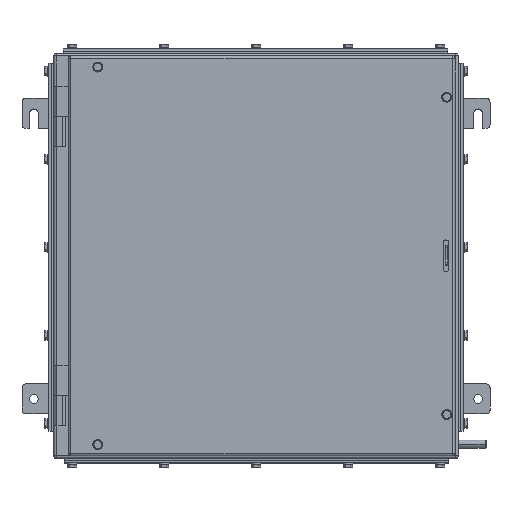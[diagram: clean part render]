
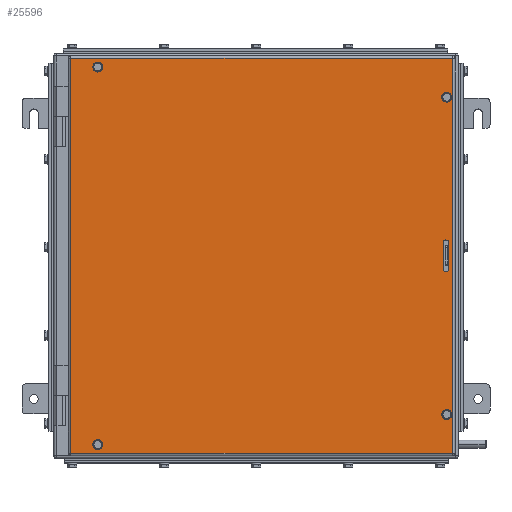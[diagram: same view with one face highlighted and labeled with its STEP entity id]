
A CAD part, top view. The second image highlights one B-rep face of the part: STEP entity #25596.
In plain terms, the highlighted planar face has unit normal (0, 0, 1).
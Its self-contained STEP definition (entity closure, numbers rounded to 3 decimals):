
#14 = EDGE_CURVE ( 'NONE', #9750, #15095, #8556, .T. ) ;
#539 = AXIS2_PLACEMENT_3D ( 'NONE', #9862, #834, #19491 ) ;
#834 = DIRECTION ( 'NONE',  ( 0., 0., 1. ) ) ;
#990 = FACE_BOUND ( 'NONE', #4991, .T. ) ;
#1083 = VERTEX_POINT ( 'NONE', #19952 ) ;
#1320 = ORIENTED_EDGE ( 'NONE', *, *, #2948, .F. ) ;
#1481 = ORIENTED_EDGE ( 'NONE', *, *, #18005, .F. ) ;
#1583 = CARTESIAN_POINT ( 'NONE',  ( 48., 238., 18. ) ) ;
#1828 = CIRCLE ( 'NONE', #15972, 3.5 ) ;
#1852 = ORIENTED_EDGE ( 'NONE', *, *, #14748, .F. ) ;
#1881 = EDGE_LOOP ( 'NONE', ( #19009, #20680, #21380, #5660 ) ) ;
#1978 = EDGE_CURVE ( 'NONE', #4297, #22771, #18987, .T. ) ;
#2020 = VERTEX_POINT ( 'NONE', #28738 ) ;
#2804 = CARTESIAN_POINT ( 'NONE',  ( 488., -200., 18. ) ) ;
#2948 = EDGE_CURVE ( 'NONE', #6728, #8467, #7633, .T. ) ;
#3142 = CARTESIAN_POINT ( 'NONE',  ( 487., 16.5, 18. ) ) ;
#3213 = FACE_BOUND ( 'NONE', #10265, .T. ) ;
#3491 = DIRECTION ( 'NONE',  ( 0., 1., 0. ) ) ;
#3697 = CARTESIAN_POINT ( 'NONE',  ( 484.5, 200., 18. ) ) ;
#4297 = VERTEX_POINT ( 'NONE', #14318 ) ;
#4305 = CARTESIAN_POINT ( 'NONE',  ( 44.5, 238., 18. ) ) ;
#4435 = AXIS2_PLACEMENT_3D ( 'NONE', #24098, #10481, #19505 ) ;
#4451 = LINE ( 'NONE', #13494, #6062 ) ;
#4639 = DIRECTION ( 'NONE',  ( 1., 0., 0. ) ) ;
#4858 = ORIENTED_EDGE ( 'NONE', *, *, #17711, .F. ) ;
#4908 = CIRCLE ( 'NONE', #21443, 3.5 ) ;
#4938 = DIRECTION ( 'NONE',  ( 0., 0., 1. ) ) ;
#4991 = EDGE_LOOP ( 'NONE', ( #13675, #6557 ) ) ;
#5076 = CARTESIAN_POINT ( 'NONE',  ( 48., -238., 18. ) ) ;
#5660 = ORIENTED_EDGE ( 'NONE', *, *, #22621, .T. ) ;
#6062 = VECTOR ( 'NONE', #25581, 1000. ) ;
#6453 = ORIENTED_EDGE ( 'NONE', *, *, #23432, .F. ) ;
#6557 = ORIENTED_EDGE ( 'NONE', *, *, #14, .F. ) ;
#6728 = VERTEX_POINT ( 'NONE', #15006 ) ;
#6882 = CARTESIAN_POINT ( 'NONE',  ( 48., -238., 18. ) ) ;
#6915 = VERTEX_POINT ( 'NONE', #11271 ) ;
#7012 = CIRCLE ( 'NONE', #22149, 3.5 ) ;
#7597 = CARTESIAN_POINT ( 'NONE',  ( 48., 238., 18. ) ) ;
#7617 = AXIS2_PLACEMENT_3D ( 'NONE', #2804, #20583, #18211 ) ;
#7633 = LINE ( 'NONE', #19030, #10728 ) ;
#7655 = FACE_BOUND ( 'NONE', #27430, .T. ) ;
#7675 = AXIS2_PLACEMENT_3D ( 'NONE', #15005, #25666, #24028 ) ;
#7728 = DIRECTION ( 'NONE',  ( 0., 0., 1. ) ) ;
#7946 = PLANE ( 'NONE',  #27025 ) ;
#8013 = DIRECTION ( 'NONE',  ( 0., 0., 1. ) ) ;
#8063 = CARTESIAN_POINT ( 'NONE',  ( 498., 249., 18. ) ) ;
#8199 = EDGE_LOOP ( 'NONE', ( #11620, #6453 ) ) ;
#8467 = VERTEX_POINT ( 'NONE', #10518 ) ;
#8556 = CIRCLE ( 'NONE', #15660, 3.5 ) ;
#9002 = EDGE_CURVE ( 'NONE', #21807, #6728, #19422, .T. ) ;
#9081 = DIRECTION ( 'NONE',  ( 1., 0., 0. ) ) ;
#9420 = VECTOR ( 'NONE', #17092, 1000. ) ;
#9424 = VERTEX_POINT ( 'NONE', #14384 ) ;
#9577 = DIRECTION ( 'NONE',  ( 1., 0., 0. ) ) ;
#9750 = VERTEX_POINT ( 'NONE', #4305 ) ;
#9862 = CARTESIAN_POINT ( 'NONE',  ( 487., -16.5, 18. ) ) ;
#10265 = EDGE_LOOP ( 'NONE', ( #1852, #1481, #1320, #16681 ) ) ;
#10288 = VERTEX_POINT ( 'NONE', #23195 ) ;
#10481 = DIRECTION ( 'NONE',  ( 0., 0., 1. ) ) ;
#10518 = CARTESIAN_POINT ( 'NONE',  ( 490.5, 16.5, 18. ) ) ;
#10545 = CARTESIAN_POINT ( 'NONE',  ( 44.5, -238., 18. ) ) ;
#10728 = VECTOR ( 'NONE', #3491, 1000. ) ;
#10831 = CIRCLE ( 'NONE', #27311, 3.5 ) ;
#10847 = CARTESIAN_POINT ( 'NONE',  ( 14., 249., 18. ) ) ;
#11215 = EDGE_CURVE ( 'NONE', #17524, #9424, #10831, .T. ) ;
#11226 = ORIENTED_EDGE ( 'NONE', *, *, #26048, .F. ) ;
#11271 = CARTESIAN_POINT ( 'NONE',  ( 483.5, 16.5, 18. ) ) ;
#11620 = ORIENTED_EDGE ( 'NONE', *, *, #12013, .F. ) ;
#12013 = EDGE_CURVE ( 'NONE', #10288, #2020, #14829, .T. ) ;
#12254 = FACE_BOUND ( 'NONE', #8199, .T. ) ;
#12321 = DIRECTION ( 'NONE',  ( 1., 0., 0. ) ) ;
#13246 = VECTOR ( 'NONE', #9577, 1000. ) ;
#13494 = CARTESIAN_POINT ( 'NONE',  ( 483.5, 16.5, 18. ) ) ;
#13675 = ORIENTED_EDGE ( 'NONE', *, *, #13679, .F. ) ;
#13679 = EDGE_CURVE ( 'NONE', #15095, #9750, #4908, .T. ) ;
#14247 = VERTEX_POINT ( 'NONE', #16305 ) ;
#14318 = CARTESIAN_POINT ( 'NONE',  ( 495., -249., 18. ) ) ;
#14384 = CARTESIAN_POINT ( 'NONE',  ( 51.5, -238., 18. ) ) ;
#14527 = DIRECTION ( 'NONE',  ( 1., 0., 0. ) ) ;
#14536 = DIRECTION ( 'NONE',  ( 0., 1., 0. ) ) ;
#14748 = EDGE_CURVE ( 'NONE', #6915, #21807, #4451, .T. ) ;
#14829 = CIRCLE ( 'NONE', #4435, 3.5 ) ;
#15005 = CARTESIAN_POINT ( 'NONE',  ( 488., 200., 18. ) ) ;
#15006 = CARTESIAN_POINT ( 'NONE',  ( 490.5, -16.5, 18. ) ) ;
#15095 = VERTEX_POINT ( 'NONE', #26758 ) ;
#15227 = ORIENTED_EDGE ( 'NONE', *, *, #11215, .F. ) ;
#15312 = EDGE_CURVE ( 'NONE', #1083, #4297, #22919, .T. ) ;
#15660 = AXIS2_PLACEMENT_3D ( 'NONE', #1583, #26260, #24374 ) ;
#15972 = AXIS2_PLACEMENT_3D ( 'NONE', #3142, #8013, #14527 ) ;
#16305 = CARTESIAN_POINT ( 'NONE',  ( 491.5, 200., 18. ) ) ;
#16681 = ORIENTED_EDGE ( 'NONE', *, *, #9002, .F. ) ;
#16763 = CARTESIAN_POINT ( 'NONE',  ( 495., 252., 18. ) ) ;
#17043 = CARTESIAN_POINT ( 'NONE',  ( 488., 200., 18. ) ) ;
#17092 = DIRECTION ( 'NONE',  ( -1., 0., 0. ) ) ;
#17524 = VERTEX_POINT ( 'NONE', #10545 ) ;
#17711 = EDGE_CURVE ( 'NONE', #9424, #17524, #20714, .T. ) ;
#18005 = EDGE_CURVE ( 'NONE', #8467, #6915, #1828, .T. ) ;
#18027 = EDGE_CURVE ( 'NONE', #14247, #25301, #7012, .T. ) ;
#18211 = DIRECTION ( 'NONE',  ( 1., 0., 0. ) ) ;
#18242 = VERTEX_POINT ( 'NONE', #10847 ) ;
#18987 = LINE ( 'NONE', #16763, #26522 ) ;
#19009 = ORIENTED_EDGE ( 'NONE', *, *, #15312, .T. ) ;
#19030 = CARTESIAN_POINT ( 'NONE',  ( 490.5, 16.5, 18. ) ) ;
#19055 = DIRECTION ( 'NONE',  ( -1., 0., 0. ) ) ;
#19206 = FACE_OUTER_BOUND ( 'NONE', #1881, .T. ) ;
#19319 = LINE ( 'NONE', #8063, #9420 ) ;
#19422 = CIRCLE ( 'NONE', #539, 3.5 ) ;
#19447 = CARTESIAN_POINT ( 'NONE',  ( 14., 252., 18. ) ) ;
#19491 = DIRECTION ( 'NONE',  ( 1., 0., 0. ) ) ;
#19505 = DIRECTION ( 'NONE',  ( 1., 0., 0. ) ) ;
#19723 = EDGE_CURVE ( 'NONE', #22771, #18242, #19319, .T. ) ;
#19952 = CARTESIAN_POINT ( 'NONE',  ( 14., -249., 18. ) ) ;
#20449 = CIRCLE ( 'NONE', #7675, 3.5 ) ;
#20583 = DIRECTION ( 'NONE',  ( 0., 0., 1. ) ) ;
#20680 = ORIENTED_EDGE ( 'NONE', *, *, #1978, .T. ) ;
#20714 = CIRCLE ( 'NONE', #23537, 3.5 ) ;
#20789 = DIRECTION ( 'NONE',  ( 1., 0., 0. ) ) ;
#20975 = CARTESIAN_POINT ( 'NONE',  ( 498., -249., 18. ) ) ;
#21258 = ORIENTED_EDGE ( 'NONE', *, *, #18027, .F. ) ;
#21370 = DIRECTION ( 'NONE',  ( 0., -1., 0. ) ) ;
#21380 = ORIENTED_EDGE ( 'NONE', *, *, #19723, .T. ) ;
#21443 = AXIS2_PLACEMENT_3D ( 'NONE', #7597, #25925, #20789 ) ;
#21581 = DIRECTION ( 'NONE',  ( 0., 0., -1. ) ) ;
#21807 = VERTEX_POINT ( 'NONE', #22974 ) ;
#22149 = AXIS2_PLACEMENT_3D ( 'NONE', #17043, #7728, #12321 ) ;
#22621 = EDGE_CURVE ( 'NONE', #18242, #1083, #23901, .T. ) ;
#22771 = VERTEX_POINT ( 'NONE', #28908 ) ;
#22919 = LINE ( 'NONE', #20975, #13246 ) ;
#22974 = CARTESIAN_POINT ( 'NONE',  ( 483.5, -16.5, 18. ) ) ;
#23195 = CARTESIAN_POINT ( 'NONE',  ( 491.5, -200., 18. ) ) ;
#23205 = CARTESIAN_POINT ( 'NONE',  ( 498., 252., 18. ) ) ;
#23216 = EDGE_LOOP ( 'NONE', ( #21258, #11226 ) ) ;
#23432 = EDGE_CURVE ( 'NONE', #2020, #10288, #26044, .T. ) ;
#23537 = AXIS2_PLACEMENT_3D ( 'NONE', #6882, #28341, #9081 ) ;
#23648 = FACE_BOUND ( 'NONE', #23216, .T. ) ;
#23901 = LINE ( 'NONE', #19447, #26952 ) ;
#24028 = DIRECTION ( 'NONE',  ( 1., 0., 0. ) ) ;
#24098 = CARTESIAN_POINT ( 'NONE',  ( 488., -200., 18. ) ) ;
#24374 = DIRECTION ( 'NONE',  ( 1., 0., 0. ) ) ;
#25301 = VERTEX_POINT ( 'NONE', #3697 ) ;
#25581 = DIRECTION ( 'NONE',  ( 0., -1., 0. ) ) ;
#25596 = ADVANCED_FACE ( 'NONE', ( #3213, #7655, #12254, #23648, #990, #19206 ), #7946, .F. ) ;
#25666 = DIRECTION ( 'NONE',  ( 0., 0., 1. ) ) ;
#25925 = DIRECTION ( 'NONE',  ( 0., 0., 1. ) ) ;
#26044 = CIRCLE ( 'NONE', #7617, 3.5 ) ;
#26048 = EDGE_CURVE ( 'NONE', #25301, #14247, #20449, .T. ) ;
#26260 = DIRECTION ( 'NONE',  ( 0., 0., 1. ) ) ;
#26522 = VECTOR ( 'NONE', #14536, 1000. ) ;
#26758 = CARTESIAN_POINT ( 'NONE',  ( 51.5, 238., 18. ) ) ;
#26952 = VECTOR ( 'NONE', #21370, 1000. ) ;
#27025 = AXIS2_PLACEMENT_3D ( 'NONE', #23205, #21581, #19055 ) ;
#27311 = AXIS2_PLACEMENT_3D ( 'NONE', #5076, #4938, #4639 ) ;
#27430 = EDGE_LOOP ( 'NONE', ( #4858, #15227 ) ) ;
#28341 = DIRECTION ( 'NONE',  ( 0., 0., 1. ) ) ;
#28738 = CARTESIAN_POINT ( 'NONE',  ( 484.5, -200., 18. ) ) ;
#28908 = CARTESIAN_POINT ( 'NONE',  ( 495., 249., 18. ) ) ;
